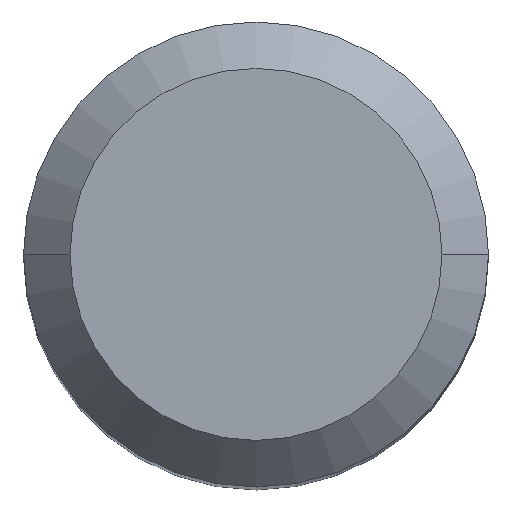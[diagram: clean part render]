
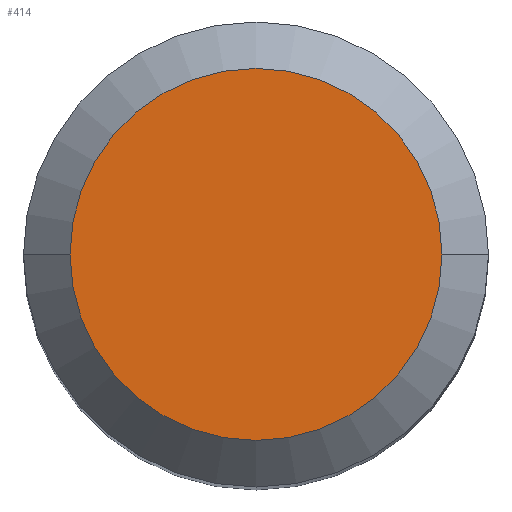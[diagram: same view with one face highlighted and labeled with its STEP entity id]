
A CAD part, top view. The second image highlights one B-rep face of the part: STEP entity #414.
In plain terms, the highlighted planar face has unit normal (0, 0, 1).
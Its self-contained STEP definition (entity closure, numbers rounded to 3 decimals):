
#38 = DIRECTION ( 'NONE',  ( 0., 0., 1. ) ) ;
#67 = DIRECTION ( 'NONE',  ( 0., 0., -1. ) ) ;
#75 = VERTEX_POINT ( 'NONE', #412 ) ;
#86 = EDGE_CURVE ( 'NONE', #552, #75, #97, .T. ) ;
#92 = PLANE ( 'NONE',  #155 ) ;
#97 = CIRCLE ( 'NONE', #409, 4.8 ) ;
#102 = CARTESIAN_POINT ( 'NONE',  ( -4.8, 0., 0. ) ) ;
#133 = EDGE_CURVE ( 'NONE', #75, #552, #429, .T. ) ;
#140 = ORIENTED_EDGE ( 'NONE', *, *, #86, .F. ) ;
#155 = AXIS2_PLACEMENT_3D ( 'NONE', #615, #38, #244 ) ;
#179 = CARTESIAN_POINT ( 'NONE',  ( 0., 0., 0. ) ) ;
#232 = DIRECTION ( 'NONE',  ( 0., 0., -1. ) ) ;
#244 = DIRECTION ( 'NONE',  ( 1., 0., 0. ) ) ;
#251 = ORIENTED_EDGE ( 'NONE', *, *, #133, .F. ) ;
#360 = CARTESIAN_POINT ( 'NONE',  ( 0., 0., 0. ) ) ;
#369 = DIRECTION ( 'NONE',  ( -1., 0., 0. ) ) ;
#409 = AXIS2_PLACEMENT_3D ( 'NONE', #360, #67, #460 ) ;
#412 = CARTESIAN_POINT ( 'NONE',  ( 4.8, 0., 0. ) ) ;
#414 = ADVANCED_FACE ( 'NONE', ( #607 ), #92, .T. ) ;
#429 = CIRCLE ( 'NONE', #488, 4.8 ) ;
#460 = DIRECTION ( 'NONE',  ( -1., 0., 0. ) ) ;
#488 = AXIS2_PLACEMENT_3D ( 'NONE', #179, #232, #369 ) ;
#552 = VERTEX_POINT ( 'NONE', #102 ) ;
#558 = EDGE_LOOP ( 'NONE', ( #140, #251 ) ) ;
#607 = FACE_OUTER_BOUND ( 'NONE', #558, .T. ) ;
#615 = CARTESIAN_POINT ( 'NONE',  ( 0., 4.8, 0. ) ) ;
